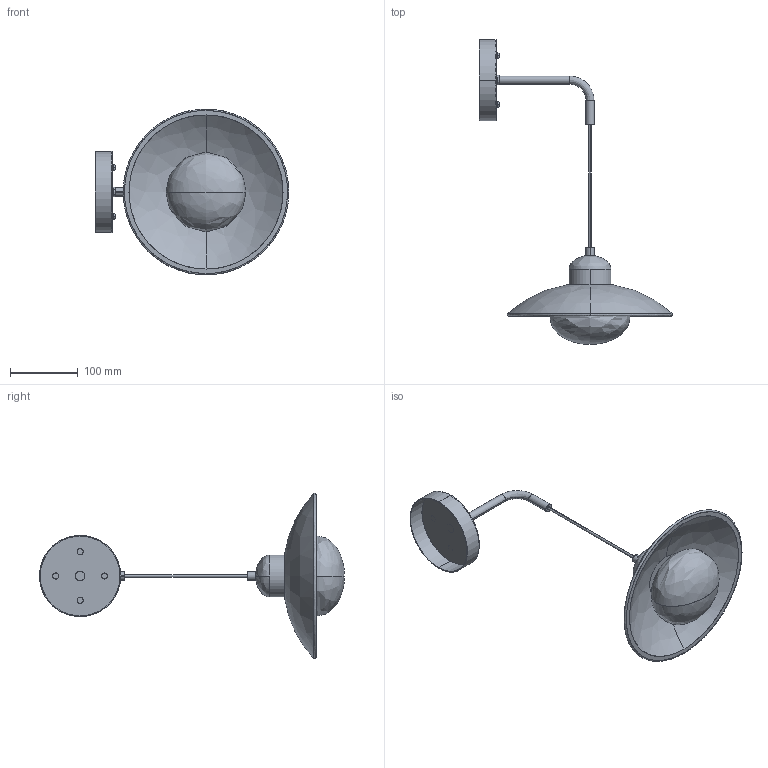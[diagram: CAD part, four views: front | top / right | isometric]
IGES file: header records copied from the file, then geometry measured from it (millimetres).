
Start section: SolidWorks IGES file using analytic representation for surfaces
Global section: file name: F:\燠隴矨\3D\2025-9\Arched Travertine Wall Light-Model C.IGS,15; native system: HSolidWorks 2022; preprocessor: SolidWorks 2022; author: MyPC; date: 250926.105154; units: millimetre
Bounding box: 286.57 x 451 x 245.15 mm (x, y, z)
Surface area: 207730.7 mm2 (no closed solid volume)
Topology: 0 solids, 0 shells, 66 faces, 1268 edges, 1262 vertices
Faces by surface type: bspline 42, revolution 24
